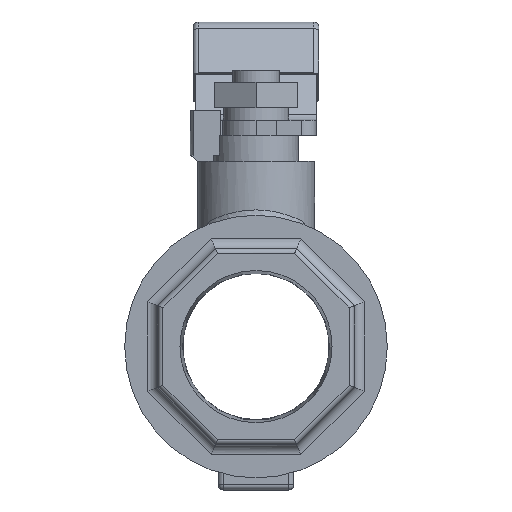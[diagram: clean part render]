
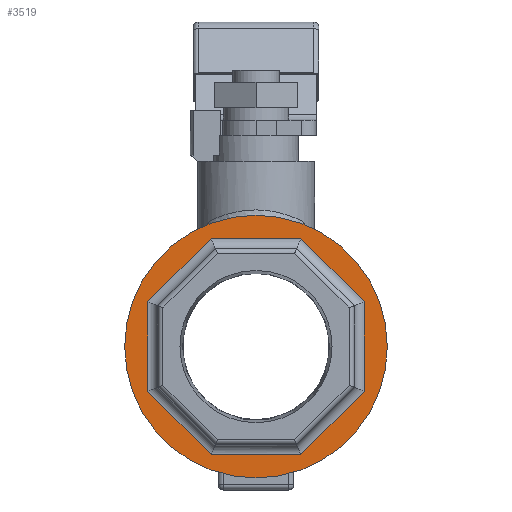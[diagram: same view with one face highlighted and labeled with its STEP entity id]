
A CAD part, front view. The second image highlights one B-rep face of the part: STEP entity #3519.
In plain terms, the highlighted planar face has unit normal (0, -1, 0).
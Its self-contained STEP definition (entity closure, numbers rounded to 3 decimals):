
#33=FACE_BOUND('',#596,.T.);
#147=PLANE('',#3814);
#377=FACE_OUTER_BOUND('',#595,.T.);
#595=EDGE_LOOP('',(#2741));
#596=EDGE_LOOP('',(#2742,#2743,#2744,#2745,#2746,#2747,#2748,#2749));
#876=LINE('',#5677,#1162);
#878=LINE('',#5685,#1164);
#880=LINE('',#5691,#1166);
#882=LINE('',#5697,#1168);
#885=LINE('',#5705,#1171);
#887=LINE('',#5711,#1173);
#889=LINE('',#5717,#1175);
#890=LINE('',#5720,#1176);
#1162=VECTOR('',#4460,17.811);
#1164=VECTOR('',#4468,17.811);
#1166=VECTOR('',#4474,17.811);
#1168=VECTOR('',#4480,17.811);
#1171=VECTOR('',#4487,17.811);
#1173=VECTOR('',#4493,17.811);
#1175=VECTOR('',#4499,17.811);
#1176=VECTOR('',#4504,17.811);
#1369=CIRCLE('',#3815,26.1);
#1583=VERTEX_POINT('',#5675);
#1584=VERTEX_POINT('',#5676);
#1587=VERTEX_POINT('',#5684);
#1589=VERTEX_POINT('',#5690);
#1591=VERTEX_POINT('',#5696);
#1594=VERTEX_POINT('',#5704);
#1596=VERTEX_POINT('',#5710);
#1598=VERTEX_POINT('',#5716);
#1604=VERTEX_POINT('',#5741);
#1987=EDGE_CURVE('',#1583,#1584,#876,.T.);
#1991=EDGE_CURVE('',#1584,#1587,#878,.T.);
#1994=EDGE_CURVE('',#1587,#1589,#880,.T.);
#1997=EDGE_CURVE('',#1589,#1591,#882,.T.);
#2001=EDGE_CURVE('',#1591,#1594,#885,.T.);
#2004=EDGE_CURVE('',#1594,#1596,#887,.T.);
#2007=EDGE_CURVE('',#1596,#1598,#889,.T.);
#2009=EDGE_CURVE('',#1598,#1583,#890,.T.);
#2020=EDGE_CURVE('',#1604,#1604,#1369,.T.);
#2741=ORIENTED_EDGE('',*,*,#2020,.F.);
#2742=ORIENTED_EDGE('',*,*,#1987,.F.);
#2743=ORIENTED_EDGE('',*,*,#2009,.F.);
#2744=ORIENTED_EDGE('',*,*,#2007,.F.);
#2745=ORIENTED_EDGE('',*,*,#2004,.F.);
#2746=ORIENTED_EDGE('',*,*,#2001,.F.);
#2747=ORIENTED_EDGE('',*,*,#1997,.F.);
#2748=ORIENTED_EDGE('',*,*,#1994,.F.);
#2749=ORIENTED_EDGE('',*,*,#1991,.F.);
#3519=ADVANCED_FACE('',(#377,#33),#147,.T.);
#3814=AXIS2_PLACEMENT_3D('',#5740,#4523,#4524);
#3815=AXIS2_PLACEMENT_3D('',#5742,#4525,#4526);
#4460=DIRECTION('',(0.707,0.,0.707));
#4468=DIRECTION('',(0.,0.,1.));
#4474=DIRECTION('',(-0.707,0.,0.707));
#4480=DIRECTION('',(-1.,0.,0.));
#4487=DIRECTION('',(-0.707,0.,-0.707));
#4493=DIRECTION('',(0.,0.,-1.));
#4499=DIRECTION('',(0.707,0.,-0.707));
#4504=DIRECTION('',(1.,0.,0.));
#4523=DIRECTION('center_axis',(0.,-1.,0.));
#4524=DIRECTION('ref_axis',(0.,0.,-1.));
#4525=DIRECTION('center_axis',(0.,1.,0.));
#4526=DIRECTION('ref_axis',(1.,0.,0.));
#5675=CARTESIAN_POINT('',(8.906,-30.2,-21.5));
#5676=CARTESIAN_POINT('',(21.5,-30.2,-8.906));
#5677=CARTESIAN_POINT('',(24.584,-30.2,-5.822));
#5684=CARTESIAN_POINT('',(21.5,-30.2,8.906));
#5685=CARTESIAN_POINT('',(21.5,-30.2,17.089));
#5690=CARTESIAN_POINT('',(8.906,-30.2,21.5));
#5691=CARTESIAN_POINT('',(5.822,-30.2,24.584));
#5696=CARTESIAN_POINT('',(-8.906,-30.2,21.5));
#5697=CARTESIAN_POINT('',(-4.039,-30.2,21.5));
#5704=CARTESIAN_POINT('',(-21.5,-30.2,8.906));
#5705=CARTESIAN_POINT('',(-11.534,-30.2,18.872));
#5710=CARTESIAN_POINT('',(-21.5,-30.2,-8.906));
#5711=CARTESIAN_POINT('',(-21.5,-30.2,9.011));
#5716=CARTESIAN_POINT('',(-8.906,-30.2,-21.5));
#5717=CARTESIAN_POINT('',(-18.872,-30.2,-11.534));
#5720=CARTESIAN_POINT('',(4.039,-30.2,-21.5));
#5740=CARTESIAN_POINT('Origin',(0.,-30.2,26.1));
#5741=CARTESIAN_POINT('',(0.,-30.2,26.1));
#5742=CARTESIAN_POINT('Origin',(0.,-30.2,0.));
